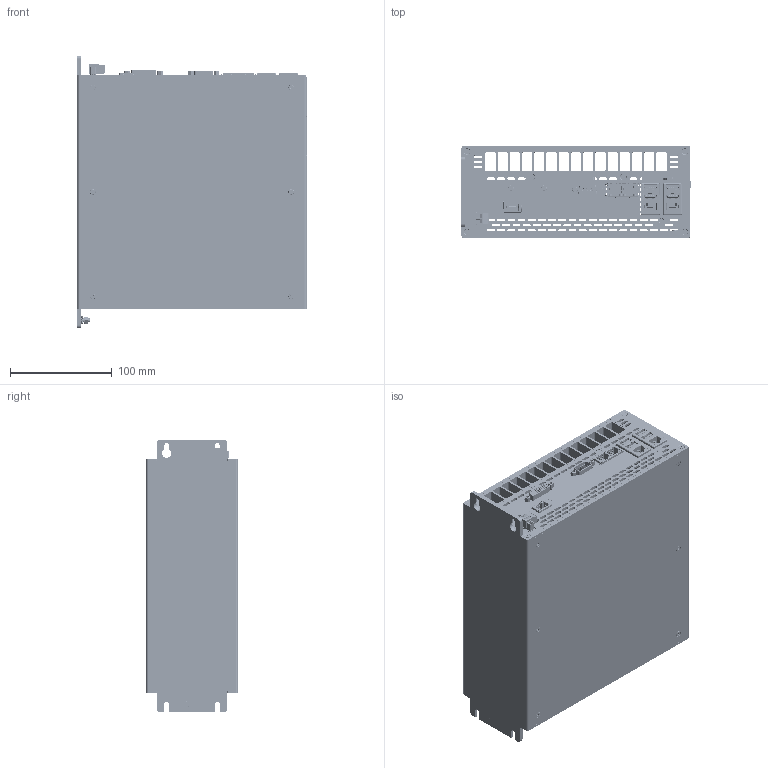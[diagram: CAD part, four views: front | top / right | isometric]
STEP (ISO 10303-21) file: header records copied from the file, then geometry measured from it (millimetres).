
FILE_DESCRIPTION (( 'STEP AP214' ), '1' );
FILE_NAME ('C6P34-BM_D0_RVL.STEP', '2019-09-20T12:48:25', ( '' ), ( '' ), 'SwSTEP 2.0', 'SolidWorks 2018', '' );
FILE_SCHEMA (( 'AUTOMOTIVE_DESIGN' ));
Length unit declared in the file: millimetre
Products named in the file (44): 56636725; 21410052; 66820000; piazzuola_de800_di370; 21402062; 52536136; 20100011; 7397_279; 7397_279_Depopolata; 52500002; 56636680; 52912002; 7397_276; C6P34-BM_D0_RVL; 54236002_Default<A macchina>; 21410060; 21502089; 21410056; 66811014; 53936027; 21405029; 7359_051; 21409042; 7359_051_Depopolata; 7397_276_Depopolata; 21410046; 62920001; 61820002; 14300036; 21614000; 64312003; 54336008_Default<A macchina>; 66320015; 21505014; 62120039; 62920005; 57136005; 62990009; 21512011; 21509026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
Assembly tree (100 placements, depth 3):
  C6P34-BM_D0_RVL
    52500002
      52536136
      52912002
      66320015  x4
    7359_051_Depopolata
      7359_051
      23330039  x4
      21410052
      21512011
      21410046  x2
      21410056
      21409042
      21405029  x2
      20100011
      21509026
      piazzuola_de800_di370  x8
      14300036  x7
    54236002_Default<A macchina>
    7397_279_Depopolata
      7397_279
      21502089
      piazzuola_de800_di370  x5
    21402062
    54336011
      54336008_Default<A macchina>
      57136005
      62990009  x2
      64312003  x2
      62120039
    56636725
    56636680
    53936027  x2
    21614000  x4
    66011039  x12
    66820000
    66811014  x12
    62920001
    62920005
    62920011
    61820002
    7397_276_Depopolata
      7397_276
      21410060
      21505014
      piazzuola_de800_di370  x2
      14300036
Bounding box: 225.01 x 90 x 268 mm (x, y, z)
Volume: 502847.6 mm3; surface area: 928406.8 mm2
Topology: 155 solids, 381 shells, 23687 faces, 66620 edges, 43689 vertices
Faces by surface type: plane 14907, cylinder 7578, bspline 703, cone 450, torus 49
Entity records: 693418 total; most frequent: CARTESIAN_POINT 149918, ORIENTED_EDGE 108759, DIRECTION 100704, EDGE_CURVE 55236, LINE 40064, VECTOR 40064, VERTEX_POINT 36306, AXIS2_PLACEMENT_3D 30320
